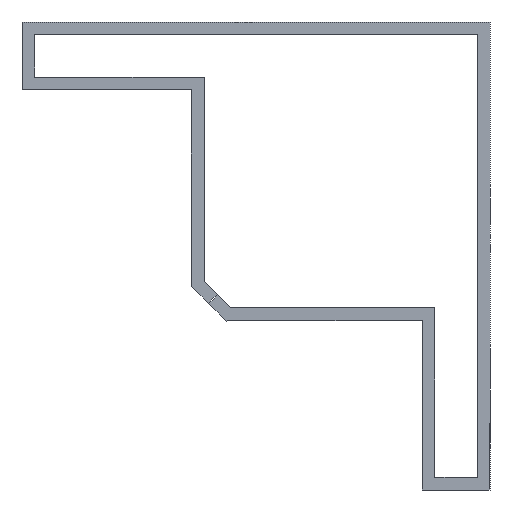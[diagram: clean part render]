
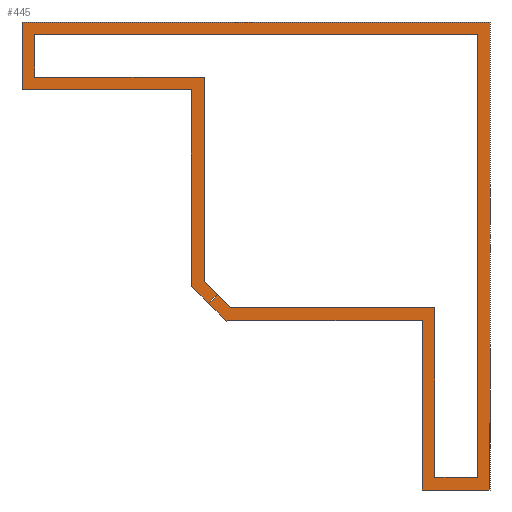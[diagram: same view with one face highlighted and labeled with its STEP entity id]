
A CAD part, front view. The second image highlights one B-rep face of the part: STEP entity #445.
In plain terms, the highlighted planar face has unit normal (0, -1, 0).
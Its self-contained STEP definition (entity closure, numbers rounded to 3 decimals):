
#119 = VERTEX_POINT('',#120);
#120 = CARTESIAN_POINT('',(-49.7,0.,-7.2));
#126 = EDGE_CURVE('',#127,#119,#129,.T.);
#127 = VERTEX_POINT('',#128);
#128 = CARTESIAN_POINT('',(-31.7,0.,-7.2));
#129 = LINE('',#130,#131);
#130 = CARTESIAN_POINT('',(-31.7,0.,-7.2));
#131 = VECTOR('',#132,1.);
#132 = DIRECTION('',(-1.,0.,0.));
#185 = VERTEX_POINT('',#186);
#186 = CARTESIAN_POINT('',(-48.35,0.,-5.85));
#194 = EDGE_CURVE('',#185,#195,#197,.T.);
#195 = VERTEX_POINT('',#196);
#196 = CARTESIAN_POINT('',(-30.35,0.,-5.85));
#197 = LINE('',#198,#199);
#198 = CARTESIAN_POINT('',(-48.35,0.,-5.85));
#199 = VECTOR('',#200,1.);
#200 = DIRECTION('',(1.,0.,0.));
#445 = ADVANCED_FACE('',(#446),#614,.T.);
#446 = FACE_BOUND('',#447,.T.);
#447 = EDGE_LOOP('',(#448,#449,#457,#465,#473,#481,#487,#488,#496,#504,
    #512,#520,#528,#536,#544,#552,#560,#568,#576,#584,#592,#600,#608));
#448 = ORIENTED_EDGE('',*,*,#126,.F.);
#449 = ORIENTED_EDGE('',*,*,#450,.T.);
#450 = EDGE_CURVE('',#127,#451,#453,.T.);
#451 = VERTEX_POINT('',#452);
#452 = CARTESIAN_POINT('',(-31.7,0.,-28.081));
#453 = LINE('',#454,#455);
#454 = CARTESIAN_POINT('',(-31.7,0.,-7.2));
#455 = VECTOR('',#456,1.);
#456 = DIRECTION('',(0.,0.,-1.));
#457 = ORIENTED_EDGE('',*,*,#458,.T.);
#458 = EDGE_CURVE('',#451,#459,#461,.T.);
#459 = VERTEX_POINT('',#460);
#460 = CARTESIAN_POINT('',(-29.908,0.,-29.873));
#461 = LINE('',#462,#463);
#462 = CARTESIAN_POINT('',(-31.7,0.,-28.081));
#463 = VECTOR('',#464,1.);
#464 = DIRECTION('',(0.707,0.,-0.707));
#465 = ORIENTED_EDGE('',*,*,#466,.F.);
#466 = EDGE_CURVE('',#467,#459,#469,.T.);
#467 = VERTEX_POINT('',#468);
#468 = CARTESIAN_POINT('',(-28.953,0.,-28.918));
#469 = LINE('',#470,#471);
#470 = CARTESIAN_POINT('',(-29.908,0.,-29.873));
#471 = VECTOR('',#472,1.);
#472 = DIRECTION('',(-0.707,-0.,-0.707));
#473 = ORIENTED_EDGE('',*,*,#474,.T.);
#474 = EDGE_CURVE('',#467,#475,#477,.T.);
#475 = VERTEX_POINT('',#476);
#476 = CARTESIAN_POINT('',(-30.35,0.,-27.522));
#477 = LINE('',#478,#479);
#478 = CARTESIAN_POINT('',(-28.953,0.,-28.918));
#479 = VECTOR('',#480,1.);
#480 = DIRECTION('',(-0.707,0.,0.707));
#481 = ORIENTED_EDGE('',*,*,#482,.T.);
#482 = EDGE_CURVE('',#475,#195,#483,.T.);
#483 = LINE('',#484,#485);
#484 = CARTESIAN_POINT('',(-30.35,0.,-27.522));
#485 = VECTOR('',#486,1.);
#486 = DIRECTION('',(0.,0.,1.));
#487 = ORIENTED_EDGE('',*,*,#194,.F.);
#488 = ORIENTED_EDGE('',*,*,#489,.T.);
#489 = EDGE_CURVE('',#185,#490,#492,.T.);
#490 = VERTEX_POINT('',#491);
#491 = CARTESIAN_POINT('',(-48.35,0.,-1.35));
#492 = LINE('',#493,#494);
#493 = CARTESIAN_POINT('',(-48.35,0.,-5.85));
#494 = VECTOR('',#495,1.);
#495 = DIRECTION('',(0.,0.,1.));
#496 = ORIENTED_EDGE('',*,*,#497,.T.);
#497 = EDGE_CURVE('',#490,#498,#500,.T.);
#498 = VERTEX_POINT('',#499);
#499 = CARTESIAN_POINT('',(-1.35,0.,-1.35));
#500 = LINE('',#501,#502);
#501 = CARTESIAN_POINT('',(-48.35,0.,-1.35));
#502 = VECTOR('',#503,1.);
#503 = DIRECTION('',(1.,0.,0.));
#504 = ORIENTED_EDGE('',*,*,#505,.T.);
#505 = EDGE_CURVE('',#498,#506,#508,.T.);
#506 = VERTEX_POINT('',#507);
#507 = CARTESIAN_POINT('',(-1.35,0.,-48.35));
#508 = LINE('',#509,#510);
#509 = CARTESIAN_POINT('',(-1.35,0.,-1.35));
#510 = VECTOR('',#511,1.);
#511 = DIRECTION('',(0.,0.,-1.));
#512 = ORIENTED_EDGE('',*,*,#513,.T.);
#513 = EDGE_CURVE('',#506,#514,#516,.T.);
#514 = VERTEX_POINT('',#515);
#515 = CARTESIAN_POINT('',(-5.85,0.,-48.35));
#516 = LINE('',#517,#518);
#517 = CARTESIAN_POINT('',(-1.35,0.,-48.35));
#518 = VECTOR('',#519,1.);
#519 = DIRECTION('',(-1.,0.,0.));
#520 = ORIENTED_EDGE('',*,*,#521,.T.);
#521 = EDGE_CURVE('',#514,#522,#524,.T.);
#522 = VERTEX_POINT('',#523);
#523 = CARTESIAN_POINT('',(-5.85,0.,-30.35));
#524 = LINE('',#525,#526);
#525 = CARTESIAN_POINT('',(-5.85,0.,-48.35));
#526 = VECTOR('',#527,1.);
#527 = DIRECTION('',(0.,0.,1.));
#528 = ORIENTED_EDGE('',*,*,#529,.T.);
#529 = EDGE_CURVE('',#522,#530,#532,.T.);
#530 = VERTEX_POINT('',#531);
#531 = CARTESIAN_POINT('',(-27.522,0.,-30.35));
#532 = LINE('',#533,#534);
#533 = CARTESIAN_POINT('',(-5.85,0.,-30.35));
#534 = VECTOR('',#535,1.);
#535 = DIRECTION('',(-1.,0.,0.));
#536 = ORIENTED_EDGE('',*,*,#537,.T.);
#537 = EDGE_CURVE('',#530,#538,#540,.T.);
#538 = VERTEX_POINT('',#539);
#539 = CARTESIAN_POINT('',(-28.918,0.,-28.953));
#540 = LINE('',#541,#542);
#541 = CARTESIAN_POINT('',(-27.522,0.,-30.35));
#542 = VECTOR('',#543,1.);
#543 = DIRECTION('',(-0.707,0.,0.707));
#544 = ORIENTED_EDGE('',*,*,#545,.F.);
#545 = EDGE_CURVE('',#546,#538,#548,.T.);
#546 = VERTEX_POINT('',#547);
#547 = CARTESIAN_POINT('',(-29.873,0.,-29.908));
#548 = LINE('',#549,#550);
#549 = CARTESIAN_POINT('',(-29.873,0.,-29.908));
#550 = VECTOR('',#551,1.);
#551 = DIRECTION('',(0.707,0.,0.707));
#552 = ORIENTED_EDGE('',*,*,#553,.T.);
#553 = EDGE_CURVE('',#546,#554,#556,.T.);
#554 = VERTEX_POINT('',#555);
#555 = CARTESIAN_POINT('',(-27.996,0.,-31.784));
#556 = LINE('',#557,#558);
#557 = CARTESIAN_POINT('',(-29.873,0.,-29.908));
#558 = VECTOR('',#559,1.);
#559 = DIRECTION('',(0.707,0.,-0.707));
#560 = ORIENTED_EDGE('',*,*,#561,.F.);
#561 = EDGE_CURVE('',#562,#554,#564,.T.);
#562 = VERTEX_POINT('',#563);
#563 = CARTESIAN_POINT('',(-27.85,0.,-31.7));
#564 = LINE('',#565,#566);
#565 = CARTESIAN_POINT('',(-21.303,0.,-27.92));
#566 = VECTOR('',#567,1.);
#567 = DIRECTION('',(-0.866,-0.,-0.5));
#568 = ORIENTED_EDGE('',*,*,#569,.T.);
#569 = EDGE_CURVE('',#562,#570,#572,.T.);
#570 = VERTEX_POINT('',#571);
#571 = CARTESIAN_POINT('',(-7.2,0.,-31.7));
#572 = LINE('',#573,#574);
#573 = CARTESIAN_POINT('',(-27.85,0.,-31.7));
#574 = VECTOR('',#575,1.);
#575 = DIRECTION('',(1.,0.,0.));
#576 = ORIENTED_EDGE('',*,*,#577,.T.);
#577 = EDGE_CURVE('',#570,#578,#580,.T.);
#578 = VERTEX_POINT('',#579);
#579 = CARTESIAN_POINT('',(-7.2,0.,-49.7));
#580 = LINE('',#581,#582);
#581 = CARTESIAN_POINT('',(-7.2,0.,-31.7));
#582 = VECTOR('',#583,1.);
#583 = DIRECTION('',(0.,0.,-1.));
#584 = ORIENTED_EDGE('',*,*,#585,.T.);
#585 = EDGE_CURVE('',#578,#586,#588,.T.);
#586 = VERTEX_POINT('',#587);
#587 = CARTESIAN_POINT('',(0.,0.,-49.7));
#588 = LINE('',#589,#590);
#589 = CARTESIAN_POINT('',(-7.2,0.,-49.7));
#590 = VECTOR('',#591,1.);
#591 = DIRECTION('',(1.,0.,0.));
#592 = ORIENTED_EDGE('',*,*,#593,.T.);
#593 = EDGE_CURVE('',#586,#594,#596,.T.);
#594 = VERTEX_POINT('',#595);
#595 = CARTESIAN_POINT('',(0.,0.,0.));
#596 = LINE('',#597,#598);
#597 = CARTESIAN_POINT('',(0.,0.,-49.7));
#598 = VECTOR('',#599,1.);
#599 = DIRECTION('',(0.,0.,1.));
#600 = ORIENTED_EDGE('',*,*,#601,.T.);
#601 = EDGE_CURVE('',#594,#602,#604,.T.);
#602 = VERTEX_POINT('',#603);
#603 = CARTESIAN_POINT('',(-49.7,0.,0.));
#604 = LINE('',#605,#606);
#605 = CARTESIAN_POINT('',(0.,0.,0.));
#606 = VECTOR('',#607,1.);
#607 = DIRECTION('',(-1.,0.,0.));
#608 = ORIENTED_EDGE('',*,*,#609,.T.);
#609 = EDGE_CURVE('',#602,#119,#610,.T.);
#610 = LINE('',#611,#612);
#611 = CARTESIAN_POINT('',(-49.7,0.,0.));
#612 = VECTOR('',#613,1.);
#613 = DIRECTION('',(0.,0.,-1.));
#614 = PLANE('',#615);
#615 = AXIS2_PLACEMENT_3D('',#616,#617,#618);
#616 = CARTESIAN_POINT('',(0.,0.,-49.7));
#617 = DIRECTION('',(0.,-1.,0.));
#618 = DIRECTION('',(0.,-0.,-1.));
